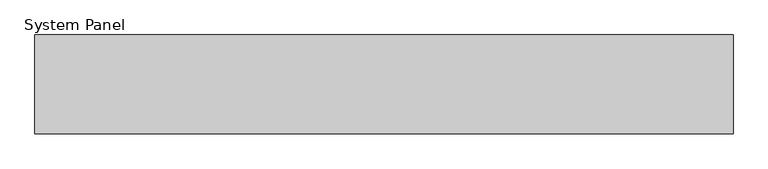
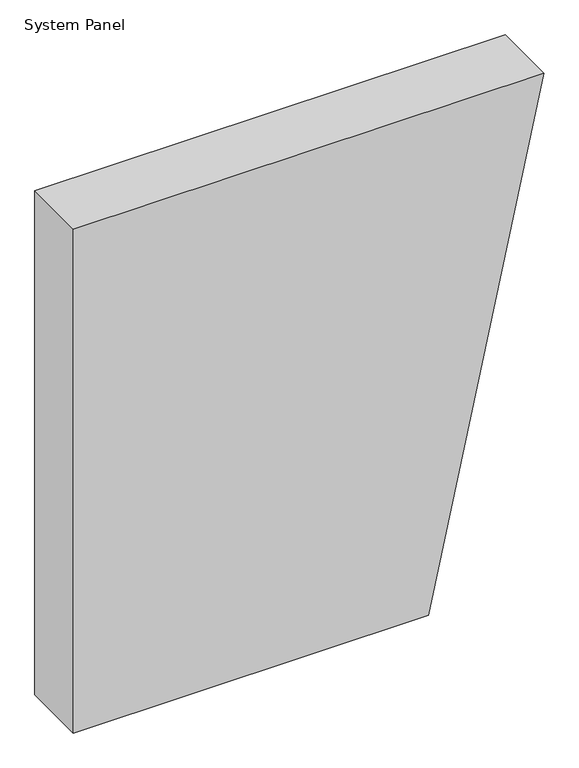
"""IFC4 building model written with IfcOpenShell, lengths in millimetres: plate geometry, System Panel : Equitilt 150mm Horizontal - Plain RHEA - EPS-FR."""

import ifcopenshell
import ifcopenshell.guid

model = None  # the IFC model being written
_history = None  # IfcOwnerHistory: only IFC2X3 demands one
_inside = {}  # id of a spatial element -> (the spatial element, [elements in it])
_under = {}  # id of a project, library or spatial element -> (it, [spatial elements below it])
_declared = {}  # id of a project -> (the project, [libraries it declares])
_typed = {}  # id of a type object -> (the type object, [elements of that type])
_made_of = {}  # id of a material, layer set ... -> (it, [elements and type objects made of it])


def new_model(schema):
    """Start an empty IFC model of exactly this schema.

    Asked for "IFC4X3", IfcOpenShell would pick the latest addendum, in which some entities
    have other attributes; the version numbers below select the first issue.
    IFC2X3 requires an IfcOwnerHistory on every rooted entity: one is made here for all.
    """
    global model, _history
    if schema == "IFC4X3":
        model = ifcopenshell.file(schema_version=(4, 3, 0, 0))
    else:
        model = ifcopenshell.file(schema=schema)
    _inside.clear()
    _under.clear()
    _declared.clear()
    _typed.clear()
    _made_of.clear()
    _history = None
    if model.schema == "IFC2X3":
        org = make("IfcOrganization", Name="unknown")
        user = make(
            "IfcPersonAndOrganization",
            ThePerson=make("IfcPerson", FamilyName="unknown"),
            TheOrganization=org,
        )
        app = make(
            "IfcApplication",
            ApplicationDeveloper=org,
            Version="unknown",
            ApplicationFullName="unknown",
            ApplicationIdentifier="unknown",
        )
        _history = make(
            "IfcOwnerHistory",
            OwningUser=user,
            OwningApplication=app,
            ChangeAction="ADDED",
            CreationDate=0,
        )
    return model


def make(cls, **values):
    """One entity of the class cls with the attributes given. An attribute that is None is left unset."""
    return model.create_entity(
        cls, **{name: value for name, value in values.items() if value is not None}
    )


def rooted(cls, **values):
    """An entity with a GlobalId (a new one), such as an element, a storey or a relation."""
    return make(cls, GlobalId=ifcopenshell.guid.new(), OwnerHistory=_history, **values)


def si_unit(unit_type, name, prefix=None):
    """IfcSIUnit, for example si_unit("LENGTHUNIT", "METRE", prefix="MILLI")."""
    return make("IfcSIUnit", UnitType=unit_type, Prefix=prefix, Name=name)


def assignment(units):
    """IfcUnitAssignment: the units of a project."""
    return None if units is None else make("IfcUnitAssignment", Units=units)


def point(xyz):
    """IfcCartesianPoint."""
    return None if xyz is None else make("IfcCartesianPoint", Coordinates=xyz)


def direction(xyz):
    """IfcDirection."""
    return None if xyz is None else make("IfcDirection", DirectionRatios=xyz)


def frame(location, z_axis=None, x_axis=None):
    """IfcAxis2Placement3D, a coordinate frame: its origin and axes. An axis left out is left unset."""
    return make(
        "IfcAxis2Placement3D",
        Location=point(location),
        Axis=direction(z_axis),
        RefDirection=direction(x_axis),
    )


def origin():
    """The frame at (0, 0, 0) with its axes left unset."""
    return frame((0.0, 0.0, 0.0))


def place(relative_to, where):
    """IfcLocalPlacement: puts the frame where relative to a parent placement (None: the world)."""
    return make(
        "IfcLocalPlacement", PlacementRelTo=relative_to, RelativePlacement=where
    )


def context(
    kind, dimensions, precision=None, world=None, true_north=None, identifier=None
):
    """IfcGeometricRepresentationContext, for example the 3D "Model" context."""
    return make(
        "IfcGeometricRepresentationContext",
        ContextIdentifier=identifier,
        ContextType=kind,
        CoordinateSpaceDimension=dimensions,
        Precision=precision,
        WorldCoordinateSystem=world,
        TrueNorth=true_north,
    )


def project(units=None, contexts=None):
    """IfcProject with its units and contexts."""
    return rooted(
        "IfcProject",
        Name="project",
        RepresentationContexts=contexts,
        UnitsInContext=assignment(units),
    )


def spatial(cls, under=None, at=None, **own):
    """A site, building, storey or space (cls), placed at a placement, below another one or the project."""
    s = rooted(cls, ObjectPlacement=at, **own)
    if under is not None:
        _under.setdefault(under.id(), (under, []))[1].append(s)
    return s


def polyline(points):
    """IfcPolyline through the points."""
    return make("IfcPolyline", Points=[point(p) for p in points])


def outline(outer, holes=None, kind="AREA"):
    """IfcArbitraryClosedProfileDef: a profile drawn as a closed curve; with holes, ...WithVoids."""
    if holes is None:
        return make("IfcArbitraryClosedProfileDef", ProfileType=kind, OuterCurve=outer)
    return make(
        "IfcArbitraryProfileDefWithVoids",
        ProfileType=kind,
        OuterCurve=outer,
        InnerCurves=holes,
    )


def extrude(swept, where, along, depth):
    """IfcExtrudedAreaSolid: the profile swept, set in the frame where, extruded along a direction by depth."""
    return make(
        "IfcExtrudedAreaSolid",
        SweptArea=swept,
        Position=where,
        ExtrudedDirection=direction(along),
        Depth=depth,
    )


def shape(context_of_items, identifier, shape_type, items):
    """IfcShapeRepresentation: the items that make up one representation, for example the "Body"."""
    return make(
        "IfcShapeRepresentation",
        ContextOfItems=context_of_items,
        RepresentationIdentifier=identifier,
        RepresentationType=shape_type,
        Items=items,
    )


def source(mapping_origin, context_of_items, identifier, shape_type, items):
    """IfcRepresentationMap: a shape defined once, which mapped items show again and again."""
    return make(
        "IfcRepresentationMap",
        MappingOrigin=mapping_origin,
        MappedRepresentation=shape(context_of_items, identifier, shape_type, items),
    )


def transform(
    local_origin,
    x_axis=None,
    y_axis=None,
    z_axis=None,
    scale=None,
    scale2=None,
    scale3=None,
    uniform=True,
):
    """IfcCartesianTransformationOperator3D, or its non-uniform kind. x_axis, y_axis, z_axis: its Axis1, 2, 3."""
    if uniform:
        return make(
            "IfcCartesianTransformationOperator3D",
            Axis1=direction(x_axis),
            Axis2=direction(y_axis),
            LocalOrigin=point(local_origin),
            Scale=scale,
            Axis3=direction(z_axis),
        )
    return make(
        "IfcCartesianTransformationOperator3DnonUniform",
        Axis1=direction(x_axis),
        Axis2=direction(y_axis),
        LocalOrigin=point(local_origin),
        Scale=scale,
        Axis3=direction(z_axis),
        Scale2=scale2,
        Scale3=scale3,
    )


def mapped(mapping_source, mapping_target):
    """IfcMappedItem: shows the shape of a source again, moved by a transform."""
    return make(
        "IfcMappedItem", MappingSource=mapping_source, MappingTarget=mapping_target
    )


def made_of(thing, what):
    """Note that an element or type object is made of a material, layer set ...; save() writes the relation."""
    if what is not None:
        _made_of.setdefault(what.id(), (what, []))[1].append(thing)
    return thing


def element(
    cls,
    number,
    at=None,
    inside=None,
    cuts=None,
    type_object=None,
    material=None,
    context=None,
    identifier="Body",
    shape_type=None,
    held_by="IfcProductDefinitionShape",
    body=None,
    shapes=None,
    **own,
):
    """One element of the class cls, such as IfcWall. Its Tag is "e" and its number.

    at: its placement. inside: the storey or other place that contains it. cuts: it is an
    opening in that element (IfcRelVoidsElement). A single representation is given by context,
    identifier, shape_type and body (its items); several are given by shapes. held_by: the class
    of the entity that holds the representations. save() writes the other relations.
    """
    e = rooted(cls, Tag="e%d" % number, ObjectPlacement=at, **own)
    if body is not None:
        shapes = [shape(context, identifier, shape_type, body)]
    if shapes is not None:
        e.Representation = make(held_by, Representations=shapes)
    if inside is not None:
        _inside.setdefault(inside.id(), (inside, []))[1].append(e)
    if cuts is not None:
        rooted(
            "IfcRelVoidsElement", RelatingBuildingElement=cuts, RelatedOpeningElement=e
        )
    if type_object is not None:
        _typed.setdefault(type_object.id(), (type_object, []))[1].append(e)
    return made_of(e, material)


def aggregate(whole, parts):
    """IfcRelAggregates: a whole, such as a stair, and the parts it consists of."""
    return rooted("IfcRelAggregates", RelatingObject=whole, RelatedObjects=parts)


def save(model, path):
    """Write the relations noted so far, then the file.

    IfcRelAggregates (storeys below a building ...), IfcRelContainedInSpatialStructure (elements
    in a storey), IfcRelDefinesByType, IfcRelAssociatesMaterial and IfcRelDeclares: one each for
    every whole, place, type object, material and project.
    """
    for whole, parts in _under.values():
        aggregate(whole, parts)
    for where, things in _inside.values():
        rooted(
            "IfcRelContainedInSpatialStructure",
            RelatedElements=things,
            RelatingStructure=where,
        )
    for kind, things in _typed.values():
        rooted("IfcRelDefinesByType", RelatedObjects=things, RelatingType=kind)
    for what, things in _made_of.values():
        rooted("IfcRelAssociatesMaterial", RelatedObjects=things, RelatingMaterial=what)
    for by, libraries in _declared.values():
        rooted("IfcRelDeclares", RelatingContext=by, RelatedDefinitions=libraries)
    model.write(path)


def system_panel_0390bdc7(model_context):
    return source(origin(), model_context, "Body", "SweptSolid", [
        extrude(outline(polyline([(0.0, -530.4358309), (0.0, 269.5641691), (1200.0, 530.4358309), (1200.0, -530.4358309), (0.0, -530.4358309)])), frame((0.0, -150.0, 0.0), z_axis=(0.0, 1.0, 0.0), x_axis=(0.0, 0.0, 1.0)), (0.0, 0.0, 1.0), 150.0),
    ])


if __name__ == "__main__":
    model = new_model("IFC4")
    model_context = context("Model", 3, world=origin())
    ifc_project = project(units=[si_unit("LENGTHUNIT", "METRE", prefix="MILLI")], contexts=[model_context])
    site = spatial("IfcSite", under=ifc_project)
    building = spatial("IfcBuilding", under=site)
    placement = place(None, origin())
    system_panel_shape = system_panel_0390bdc7(model_context)
    element("IfcPlate", 1, ObjectType="System Panel : Equitilt 150mm Horizontal - Plain RHEA - EPS-FR", at=placement, inside=building, context=model_context, shape_type="MappedRepresentation", body=[
        mapped(system_panel_shape, transform((0.0, 0.0, 0.0), x_axis=(1.0, 0.0, 0.0), y_axis=(0.0, 1.0, 0.0), z_axis=(0.0, 0.0, 1.0))),
    ])
    save(model, "model.ifc")
